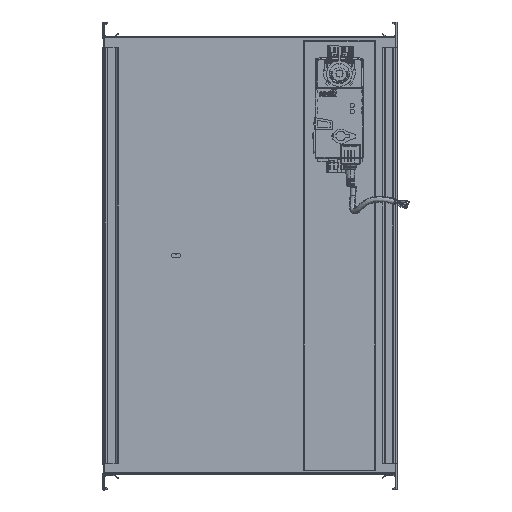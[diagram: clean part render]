
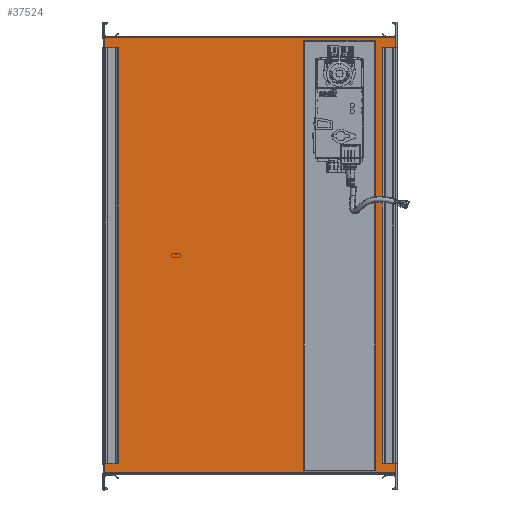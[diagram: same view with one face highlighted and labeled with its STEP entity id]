
A CAD part, top view. The second image highlights one B-rep face of the part: STEP entity #37524.
In plain terms, the highlighted planar face has unit normal (0, 0, 1).
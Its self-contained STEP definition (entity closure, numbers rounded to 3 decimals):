
#144 = DIRECTION ( 'NONE',  ( 0., -1., 0. ) ) ;
#2083 = LINE ( 'NONE', #45900, #84453 ) ;
#3135 = EDGE_CURVE ( 'NONE', #39295, #52612, #63968, .T. ) ;
#4594 = CARTESIAN_POINT ( 'NONE',  ( -244.423, -283.848, 1450. ) ) ;
#7106 = ORIENTED_EDGE ( 'NONE', *, *, #69627, .F. ) ;
#9628 = ORIENTED_EDGE ( 'NONE', *, *, #84435, .F. ) ;
#11631 = FACE_BOUND ( 'NONE', #61685, .T. ) ;
#12823 = LINE ( 'NONE', #13766, #24856 ) ;
#13766 = CARTESIAN_POINT ( 'NONE',  ( -244.423, -283.848, 1450. ) ) ;
#14941 = DIRECTION ( 'NONE',  ( 1., 0., 0. ) ) ;
#17936 = ORIENTED_EDGE ( 'NONE', *, *, #65729, .F. ) ;
#20635 = VECTOR ( 'NONE', #82879, 1000. ) ;
#21021 = EDGE_CURVE ( 'NONE', #86235, #60547, #59566, .T. ) ;
#22338 = EDGE_CURVE ( 'NONE', #39295, #78715, #12823, .T. ) ;
#24856 = VECTOR ( 'NONE', #71442, 1000. ) ;
#25385 = DIRECTION ( 'NONE',  ( 0., -1., 0. ) ) ;
#28728 = CARTESIAN_POINT ( 'NONE',  ( 155.577, -283.848, 1450. ) ) ;
#29891 = DIRECTION ( 'NONE',  ( -1., 0., 0. ) ) ;
#31313 = VERTEX_POINT ( 'NONE', #87909 ) ;
#36387 = CARTESIAN_POINT ( 'NONE',  ( 126.925, 307.652, 1450. ) ) ;
#37524 = ADVANCED_FACE ( 'NONE', ( #11631, #68795 ), #47872, .T. ) ;
#39295 = VERTEX_POINT ( 'NONE', #58155 ) ;
#39825 = VERTEX_POINT ( 'NONE', #47062 ) ;
#40662 = ORIENTED_EDGE ( 'NONE', *, *, #21021, .F. ) ;
#40787 = LINE ( 'NONE', #4594, #75314 ) ;
#41274 = ORIENTED_EDGE ( 'NONE', *, *, #3135, .F. ) ;
#42148 = VERTEX_POINT ( 'NONE', #36387 ) ;
#42458 = EDGE_CURVE ( 'NONE', #39825, #86235, #2083, .T. ) ;
#43023 = LINE ( 'NONE', #28728, #62025 ) ;
#45900 = CARTESIAN_POINT ( 'NONE',  ( 28.925, -282.348, 1450. ) ) ;
#47062 = CARTESIAN_POINT ( 'NONE',  ( 28.925, 307.652, 1450. ) ) ;
#47110 = LINE ( 'NONE', #68496, #20635 ) ;
#47872 = PLANE ( 'NONE',  #87274 ) ;
#49114 = EDGE_CURVE ( 'NONE', #78715, #31313, #40787, .T. ) ;
#52612 = VERTEX_POINT ( 'NONE', #86879 ) ;
#57315 = DIRECTION ( 'NONE',  ( 1., 0., 0. ) ) ;
#58155 = CARTESIAN_POINT ( 'NONE',  ( -244.423, 312.152, 1450. ) ) ;
#59120 = VECTOR ( 'NONE', #57315, 1000. ) ;
#59377 = LINE ( 'NONE', #66038, #63419 ) ;
#59566 = LINE ( 'NONE', #90106, #61260 ) ;
#60547 = VERTEX_POINT ( 'NONE', #68693 ) ;
#61260 = VECTOR ( 'NONE', #69999, 1000. ) ;
#61685 = EDGE_LOOP ( 'NONE', ( #40662, #76966, #17936, #7106 ) ) ;
#61928 = CARTESIAN_POINT ( 'NONE',  ( 28.925, -282.348, 1450. ) ) ;
#62025 = VECTOR ( 'NONE', #144, 1000. ) ;
#62431 = ORIENTED_EDGE ( 'NONE', *, *, #22338, .T. ) ;
#63419 = VECTOR ( 'NONE', #29891, 1000. ) ;
#63968 = LINE ( 'NONE', #93550, #59120 ) ;
#65729 = EDGE_CURVE ( 'NONE', #42148, #39825, #59377, .T. ) ;
#66038 = CARTESIAN_POINT ( 'NONE',  ( 126.925, 307.652, 1450. ) ) ;
#67430 = EDGE_LOOP ( 'NONE', ( #9628, #41274, #62431, #72521 ) ) ;
#68496 = CARTESIAN_POINT ( 'NONE',  ( 126.925, -282.348, 1450. ) ) ;
#68693 = CARTESIAN_POINT ( 'NONE',  ( 126.925, -282.348, 1450. ) ) ;
#68795 = FACE_OUTER_BOUND ( 'NONE', #67430, .T. ) ;
#69278 = CARTESIAN_POINT ( 'NONE',  ( -244.423, -283.848, 1450. ) ) ;
#69627 = EDGE_CURVE ( 'NONE', #60547, #42148, #47110, .T. ) ;
#69999 = DIRECTION ( 'NONE',  ( 1., 0., 0. ) ) ;
#71442 = DIRECTION ( 'NONE',  ( 0., -1., 0. ) ) ;
#72521 = ORIENTED_EDGE ( 'NONE', *, *, #49114, .T. ) ;
#75314 = VECTOR ( 'NONE', #14941, 1000. ) ;
#76966 = ORIENTED_EDGE ( 'NONE', *, *, #42458, .F. ) ;
#78715 = VERTEX_POINT ( 'NONE', #80781 ) ;
#80781 = CARTESIAN_POINT ( 'NONE',  ( -244.423, -283.848, 1450. ) ) ;
#82879 = DIRECTION ( 'NONE',  ( 0., 1., 0. ) ) ;
#83650 = DIRECTION ( 'NONE',  ( 0., 0., 1. ) ) ;
#84435 = EDGE_CURVE ( 'NONE', #52612, #31313, #43023, .T. ) ;
#84453 = VECTOR ( 'NONE', #25385, 1000. ) ;
#85032 = DIRECTION ( 'NONE',  ( 1., 0., 0. ) ) ;
#86235 = VERTEX_POINT ( 'NONE', #61928 ) ;
#86879 = CARTESIAN_POINT ( 'NONE',  ( 155.577, 312.152, 1450. ) ) ;
#87274 = AXIS2_PLACEMENT_3D ( 'NONE', #69278, #83650, #85032 ) ;
#87909 = CARTESIAN_POINT ( 'NONE',  ( 155.577, -283.848, 1450. ) ) ;
#90106 = CARTESIAN_POINT ( 'NONE',  ( 126.925, -282.348, 1450. ) ) ;
#93550 = CARTESIAN_POINT ( 'NONE',  ( -244.423, 312.152, 1450. ) ) ;
